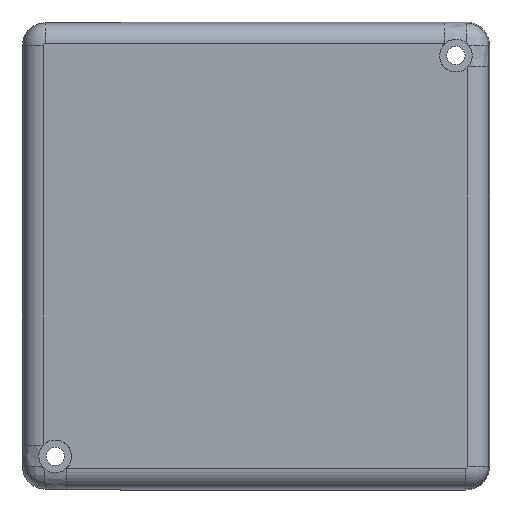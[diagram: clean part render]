
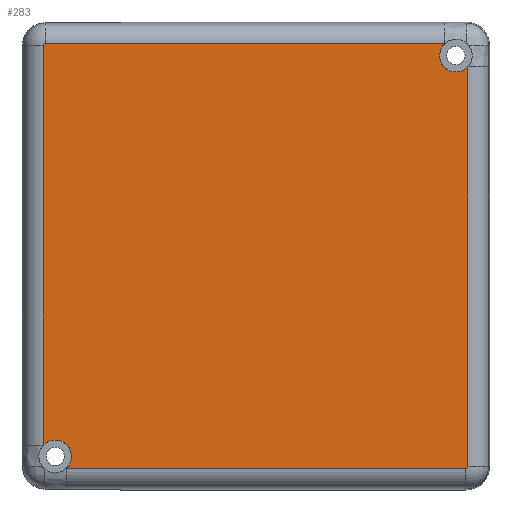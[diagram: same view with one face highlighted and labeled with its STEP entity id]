
A CAD part, front view. The second image highlights one B-rep face of the part: STEP entity #283.
In plain terms, the highlighted planar face has unit normal (0, -1, 0).
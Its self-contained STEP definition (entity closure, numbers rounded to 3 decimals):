
#25 = DIRECTION ( 'NONE',  ( 0., -1., 0. ) ) ;
#101 = VERTEX_POINT ( 'NONE', #2283 ) ;
#115 = DIRECTION ( 'NONE',  ( 0., -1., 0. ) ) ;
#198 = LINE ( 'NONE', #1450, #1609 ) ;
#217 = DIRECTION ( 'NONE',  ( 1., 0., 0. ) ) ;
#244 = ORIENTED_EDGE ( 'NONE', *, *, #313, .F. ) ;
#250 = EDGE_CURVE ( 'NONE', #101, #1368, #1174, .T. ) ;
#251 = VERTEX_POINT ( 'NONE', #447 ) ;
#268 = DIRECTION ( 'NONE',  ( 0., 0., -1. ) ) ;
#283 = ADVANCED_FACE ( 'NONE', ( #1915 ), #1007, .F. ) ;
#313 = EDGE_CURVE ( 'NONE', #1827, #629, #756, .T. ) ;
#333 = ORIENTED_EDGE ( 'NONE', *, *, #1879, .T. ) ;
#342 = ORIENTED_EDGE ( 'NONE', *, *, #2121, .F. ) ;
#367 = VERTEX_POINT ( 'NONE', #1080 ) ;
#391 = CARTESIAN_POINT ( 'NONE',  ( 105.85, 0., -7.85 ) ) ;
#414 = CIRCLE ( 'NONE', #1210, 0.469 ) ;
#424 = LINE ( 'NONE', #1882, #2290 ) ;
#447 = CARTESIAN_POINT ( 'NONE',  ( 108.769, 0., -10.585 ) ) ;
#452 = DIRECTION ( 'NONE',  ( 0., -1., 0. ) ) ;
#484 = EDGE_CURVE ( 'NONE', #629, #251, #947, .T. ) ;
#528 = AXIS2_PLACEMENT_3D ( 'NONE', #862, #883, #1597 ) ;
#558 = DIRECTION ( 'NONE',  ( -1., 0., 0. ) ) ;
#562 = VECTOR ( 'NONE', #217, 1000. ) ;
#585 = CARTESIAN_POINT ( 'NONE',  ( 4.931, 0., -5.4 ) ) ;
#629 = VERTEX_POINT ( 'NONE', #1028 ) ;
#643 = CARTESIAN_POINT ( 'NONE',  ( 103.115, 0., -4.931 ) ) ;
#715 = AXIS2_PLACEMENT_3D ( 'NONE', #1406, #854, #2085 ) ;
#719 = AXIS2_PLACEMENT_3D ( 'NONE', #391, #25, #2135 ) ;
#732 = LINE ( 'NONE', #1973, #562 ) ;
#756 = CIRCLE ( 'NONE', #2033, 4. ) ;
#842 = VERTEX_POINT ( 'NONE', #1377 ) ;
#854 = DIRECTION ( 'NONE',  ( 0., 1., 0. ) ) ;
#856 = EDGE_LOOP ( 'NONE', ( #342, #1110, #1766, #1555, #1378, #244, #1154, #333, #936, #2194 ) ) ;
#862 = CARTESIAN_POINT ( 'NONE',  ( 7.85, 0., -105.85 ) ) ;
#865 = CARTESIAN_POINT ( 'NONE',  ( 4.931, 0., -5.4 ) ) ;
#883 = DIRECTION ( 'NONE',  ( 0., -1., 0. ) ) ;
#924 = CARTESIAN_POINT ( 'NONE',  ( 108.3, 0., -108.769 ) ) ;
#936 = ORIENTED_EDGE ( 'NONE', *, *, #1262, .T. ) ;
#937 = CIRCLE ( 'NONE', #528, 4. ) ;
#944 = CARTESIAN_POINT ( 'NONE',  ( 7.85, 0., -105.85 ) ) ;
#947 = CIRCLE ( 'NONE', #719, 4. ) ;
#951 = EDGE_CURVE ( 'NONE', #1719, #842, #414, .T. ) ;
#1007 = PLANE ( 'NONE',  #715 ) ;
#1018 = DIRECTION ( 'NONE',  ( 0., 0., -1. ) ) ;
#1028 = CARTESIAN_POINT ( 'NONE',  ( 105.85, 0., -11.85 ) ) ;
#1057 = EDGE_CURVE ( 'NONE', #1114, #1719, #732, .T. ) ;
#1080 = CARTESIAN_POINT ( 'NONE',  ( 5.4, 0., -4.931 ) ) ;
#1105 = DIRECTION ( 'NONE',  ( 0., 0., 1. ) ) ;
#1110 = ORIENTED_EDGE ( 'NONE', *, *, #1057, .T. ) ;
#1114 = VERTEX_POINT ( 'NONE', #1983 ) ;
#1119 = EDGE_CURVE ( 'NONE', #1827, #367, #198, .T. ) ;
#1154 = ORIENTED_EDGE ( 'NONE', *, *, #1119, .T. ) ;
#1174 = CIRCLE ( 'NONE', #1363, 4. ) ;
#1210 = AXIS2_PLACEMENT_3D ( 'NONE', #2055, #452, #1105 ) ;
#1262 = EDGE_CURVE ( 'NONE', #1756, #1368, #1549, .T. ) ;
#1337 = CARTESIAN_POINT ( 'NONE',  ( 5.4, 0., -5.4 ) ) ;
#1363 = AXIS2_PLACEMENT_3D ( 'NONE', #944, #115, #268 ) ;
#1368 = VERTEX_POINT ( 'NONE', #2271 ) ;
#1377 = CARTESIAN_POINT ( 'NONE',  ( 108.769, 0., -108.3 ) ) ;
#1378 = ORIENTED_EDGE ( 'NONE', *, *, #484, .F. ) ;
#1406 = CARTESIAN_POINT ( 'NONE',  ( 108.3, 0., -5.4 ) ) ;
#1426 = VECTOR ( 'NONE', #1018, 1000. ) ;
#1450 = CARTESIAN_POINT ( 'NONE',  ( 108.3, 0., -4.931 ) ) ;
#1549 = LINE ( 'NONE', #865, #1426 ) ;
#1555 = ORIENTED_EDGE ( 'NONE', *, *, #1938, .T. ) ;
#1582 = CIRCLE ( 'NONE', #2253, 0.469 ) ;
#1597 = DIRECTION ( 'NONE',  ( 0., 0., -1. ) ) ;
#1609 = VECTOR ( 'NONE', #558, 1000. ) ;
#1711 = DIRECTION ( 'NONE',  ( 0., -1., 0. ) ) ;
#1719 = VERTEX_POINT ( 'NONE', #924 ) ;
#1733 = DIRECTION ( 'NONE',  ( 0., -1., 0. ) ) ;
#1756 = VERTEX_POINT ( 'NONE', #585 ) ;
#1766 = ORIENTED_EDGE ( 'NONE', *, *, #951, .T. ) ;
#1827 = VERTEX_POINT ( 'NONE', #643 ) ;
#1879 = EDGE_CURVE ( 'NONE', #367, #1756, #1582, .T. ) ;
#1882 = CARTESIAN_POINT ( 'NONE',  ( 108.769, 0., -5.4 ) ) ;
#1915 = FACE_OUTER_BOUND ( 'NONE', #856, .T. ) ;
#1929 = DIRECTION ( 'NONE',  ( 0., 0., -1. ) ) ;
#1938 = EDGE_CURVE ( 'NONE', #842, #251, #424, .T. ) ;
#1973 = CARTESIAN_POINT ( 'NONE',  ( 108.3, 0., -108.769 ) ) ;
#1983 = CARTESIAN_POINT ( 'NONE',  ( 10.585, 0., -108.769 ) ) ;
#2033 = AXIS2_PLACEMENT_3D ( 'NONE', #2280, #1733, #1929 ) ;
#2052 = DIRECTION ( 'NONE',  ( 0., 0., 1. ) ) ;
#2053 = DIRECTION ( 'NONE',  ( 0., 0., 1. ) ) ;
#2055 = CARTESIAN_POINT ( 'NONE',  ( 108.3, 0., -108.3 ) ) ;
#2085 = DIRECTION ( 'NONE',  ( 0., 0., 1. ) ) ;
#2121 = EDGE_CURVE ( 'NONE', #1114, #101, #937, .T. ) ;
#2135 = DIRECTION ( 'NONE',  ( 0., 0., -1. ) ) ;
#2194 = ORIENTED_EDGE ( 'NONE', *, *, #250, .F. ) ;
#2253 = AXIS2_PLACEMENT_3D ( 'NONE', #1337, #1711, #2053 ) ;
#2271 = CARTESIAN_POINT ( 'NONE',  ( 4.931, 0., -103.115 ) ) ;
#2280 = CARTESIAN_POINT ( 'NONE',  ( 105.85, 0., -7.85 ) ) ;
#2283 = CARTESIAN_POINT ( 'NONE',  ( 7.85, 0., -101.85 ) ) ;
#2290 = VECTOR ( 'NONE', #2052, 1000. ) ;
